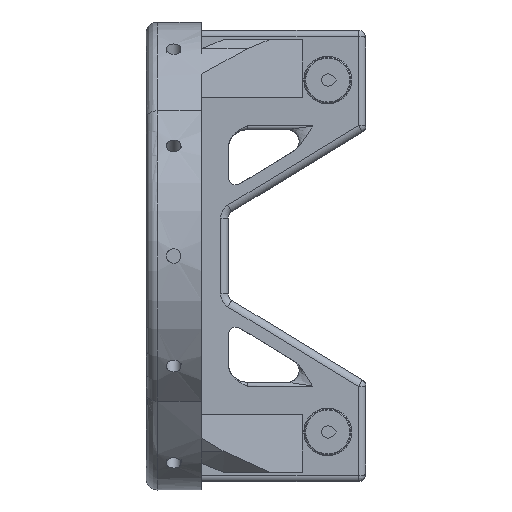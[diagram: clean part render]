
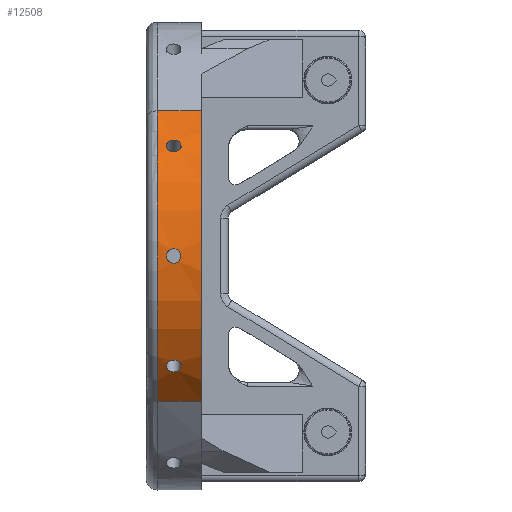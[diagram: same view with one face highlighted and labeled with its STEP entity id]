
A CAD part, left-side view. The second image highlights one B-rep face of the part: STEP entity #12508.
In plain terms, the highlighted cylindrical face has radius 49 mm (diameter 98 mm), a partial arc.
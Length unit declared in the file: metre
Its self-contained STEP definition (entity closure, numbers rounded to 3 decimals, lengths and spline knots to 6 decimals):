
#677=CIRCLE('',#13306,0.049);
#678=CIRCLE('',#13307,0.049);
#1015=LINE('',#23598,#2297);
#1016=LINE('',#23603,#2298);
#2297=VECTOR('',#14564,1.);
#2298=VECTOR('',#14567,1.);
#3723=ORIENTED_EDGE('',*,*,#7456,.F.);
#3724=ORIENTED_EDGE('',*,*,#7457,.T.);
#3725=ORIENTED_EDGE('',*,*,#7458,.T.);
#3726=ORIENTED_EDGE('',*,*,#7459,.T.);
#3727=ORIENTED_EDGE('',*,*,#7460,.T.);
#3728=ORIENTED_EDGE('',*,*,#7453,.T.);
#3729=ORIENTED_EDGE('',*,*,#7451,.T.);
#7451=EDGE_CURVE('',#9319,#9319,#10415,.T.);
#7453=EDGE_CURVE('',#9321,#9321,#10416,.T.);
#7456=EDGE_CURVE('',#9324,#9325,#1015,.T.);
#7457=EDGE_CURVE('',#9324,#9326,#677,.T.);
#7458=EDGE_CURVE('',#9326,#9327,#1016,.T.);
#7459=EDGE_CURVE('',#9327,#9325,#678,.T.);
#7460=EDGE_CURVE('',#9328,#9328,#10418,.T.);
#9319=VERTEX_POINT('',#23562);
#9321=VERTEX_POINT('',#23578);
#9324=VERTEX_POINT('',#23599);
#9325=VERTEX_POINT('',#23600);
#9326=VERTEX_POINT('',#23602);
#9327=VERTEX_POINT('',#23604);
#9328=VERTEX_POINT('',#23617);
#10415=B_SPLINE_CURVE_WITH_KNOTS('',3,(#23551,#23552,#23553,#23554,#23555,
#23556,#23557,#23558,#23559,#23560,#23561),.UNSPECIFIED.,.T.,.F.,(1,1,1,
1,1,1,1,1,1,1,1,1,1,1,1),(-0.004455,-0.00297,-0.001485,
0.,0.001485,0.00297,0.004455,0.00594,
0.007425,0.00891,0.010395,0.01188,
0.013365,0.01485,0.016335),.UNSPECIFIED.);
#10416=B_SPLINE_CURVE_WITH_KNOTS('',3,(#23567,#23568,#23569,#23570,#23571,
#23572,#23573,#23574,#23575,#23576,#23577),.UNSPECIFIED.,.T.,.F.,(1,1,1,
1,1,1,1,1,1,1,1,1,1,1,1),(-0.004455,-0.00297,-0.001485,
0.,0.001485,0.00297,0.004455,0.00594,
0.007425,0.00891,0.010395,0.01188,
0.013365,0.01485,0.016335),.UNSPECIFIED.);
#10418=B_SPLINE_CURVE_WITH_KNOTS('',3,(#23606,#23607,#23608,#23609,#23610,
#23611,#23612,#23613,#23614,#23615,#23616),.UNSPECIFIED.,.T.,.F.,(1,1,1,
1,1,1,1,1,1,1,1,1,1,1,1),(-0.004455,-0.00297,-0.001485,
0.,0.001485,0.00297,0.004455,0.00594,
0.007425,0.00891,0.010395,0.01188,
0.013365,0.01485,0.016335),.UNSPECIFIED.);
#10607=EDGE_LOOP('',(#3723,#3724,#3725,#3726));
#10608=EDGE_LOOP('',(#3727));
#10609=EDGE_LOOP('',(#3728));
#10610=EDGE_LOOP('',(#3729));
#11469=FACE_BOUND('',#10607,.T.);
#11470=FACE_BOUND('',#10608,.T.);
#11471=FACE_BOUND('',#10609,.T.);
#11472=FACE_BOUND('',#10610,.T.);
#12279=CYLINDRICAL_SURFACE('',#13305,0.049);
#12508=ADVANCED_FACE('',(#11469,#11470,#11471,#11472),#12279,.T.);
#13305=AXIS2_PLACEMENT_3D('',#23597,#14562,#14563);
#13306=AXIS2_PLACEMENT_3D('',#23601,#14565,#14566);
#13307=AXIS2_PLACEMENT_3D('',#23605,#14568,#14569);
#14562=DIRECTION('',(0.,1.,0.));
#14563=DIRECTION('',(0.,0.,1.));
#14564=DIRECTION('',(0.,-1.,0.));
#14565=DIRECTION('',(0.,-1.,0.));
#14566=DIRECTION('',(0.,0.,-1.));
#14567=DIRECTION('',(0.,-1.,0.));
#14568=DIRECTION('',(0.,1.,0.));
#14569=DIRECTION('',(0.,0.,-1.));
#23551=CARTESIAN_POINT('',(-0.150501,-0.005759,-0.027587));
#23552=CARTESIAN_POINT('',(-0.150842,-0.00725,-0.027071));
#23553=CARTESIAN_POINT('',(-0.150502,-0.008739,-0.027587));
#23554=CARTESIAN_POINT('',(-0.14965,-0.009355,-0.028806));
#23555=CARTESIAN_POINT('',(-0.148752,-0.00874,-0.029995));
#23556=CARTESIAN_POINT('',(-0.148367,-0.00725,-0.030478));
#23557=CARTESIAN_POINT('',(-0.148751,-0.005763,-0.029996));
#23558=CARTESIAN_POINT('',(-0.149648,-0.005144,-0.028809));
#23559=CARTESIAN_POINT('',(-0.150501,-0.005759,-0.027587));
#23560=CARTESIAN_POINT('',(-0.150842,-0.00725,-0.027071));
#23561=CARTESIAN_POINT('',(-0.150502,-0.008739,-0.027587));
#23562=CARTESIAN_POINT('',(-0.150729,-0.00725,-0.027243));
#23567=CARTESIAN_POINT('',(-0.148753,-0.005759,0.029994));
#23568=CARTESIAN_POINT('',(-0.148367,-0.00725,0.030478));
#23569=CARTESIAN_POINT('',(-0.148752,-0.008739,0.029995));
#23570=CARTESIAN_POINT('',(-0.149648,-0.009355,0.028808));
#23571=CARTESIAN_POINT('',(-0.150502,-0.00874,0.027587));
#23572=CARTESIAN_POINT('',(-0.150842,-0.00725,0.027071));
#23573=CARTESIAN_POINT('',(-0.150503,-0.005763,0.027585));
#23574=CARTESIAN_POINT('',(-0.149651,-0.005144,0.028805));
#23575=CARTESIAN_POINT('',(-0.148753,-0.005759,0.029994));
#23576=CARTESIAN_POINT('',(-0.148367,-0.00725,0.030478));
#23577=CARTESIAN_POINT('',(-0.148752,-0.008739,0.029995));
#23578=CARTESIAN_POINT('',(-0.148495,-0.00725,0.030317));
#23597=CARTESIAN_POINT('',(-0.11,-0.0145,0.));
#23598=CARTESIAN_POINT('',(-0.141,0.000002,0.037947));
#23599=CARTESIAN_POINT('',(-0.141,-0.003,0.037947));
#23600=CARTESIAN_POINT('',(-0.141,-0.0145,0.037947));
#23601=CARTESIAN_POINT('',(-0.11,-0.003,0.));
#23602=CARTESIAN_POINT('',(-0.141,-0.003,-0.037947));
#23603=CARTESIAN_POINT('',(-0.141,0.000002,-0.037947));
#23604=CARTESIAN_POINT('',(-0.141,-0.0145,-0.037947));
#23605=CARTESIAN_POINT('',(-0.11,-0.0145,0.));
#23606=CARTESIAN_POINT('',(-0.158982,-0.005759,0.001488));
#23607=CARTESIAN_POINT('',(-0.158954,-0.00725,0.002106));
#23608=CARTESIAN_POINT('',(-0.158982,-0.008739,0.001488));
#23609=CARTESIAN_POINT('',(-0.159009,-0.009355,0.000002));
#23610=CARTESIAN_POINT('',(-0.158982,-0.00874,-0.001488));
#23611=CARTESIAN_POINT('',(-0.158954,-0.00725,-0.002105));
#23612=CARTESIAN_POINT('',(-0.158982,-0.005763,-0.00149));
#23613=CARTESIAN_POINT('',(-0.159009,-0.005144,-0.000002));
#23614=CARTESIAN_POINT('',(-0.158982,-0.005759,0.001488));
#23615=CARTESIAN_POINT('',(-0.158954,-0.00725,0.002106));
#23616=CARTESIAN_POINT('',(-0.158982,-0.008739,0.001488));
#23617=CARTESIAN_POINT('',(-0.158963,-0.00725,0.0019));
